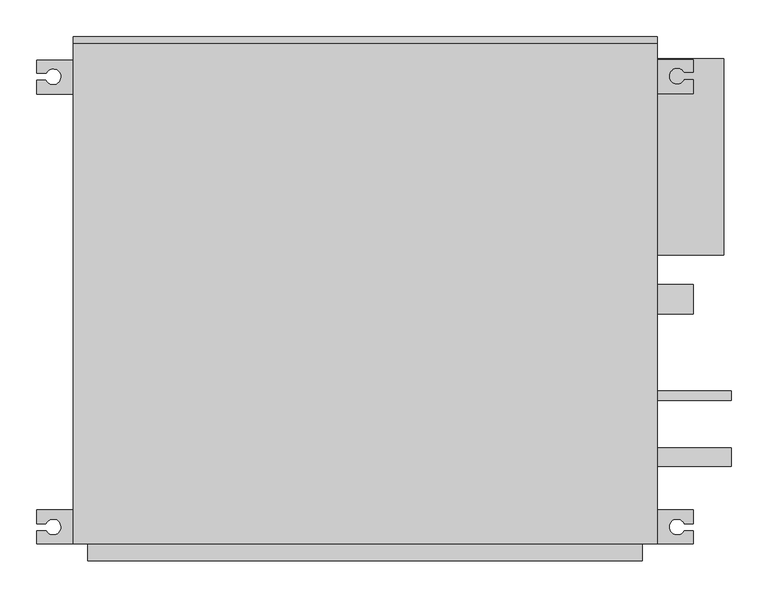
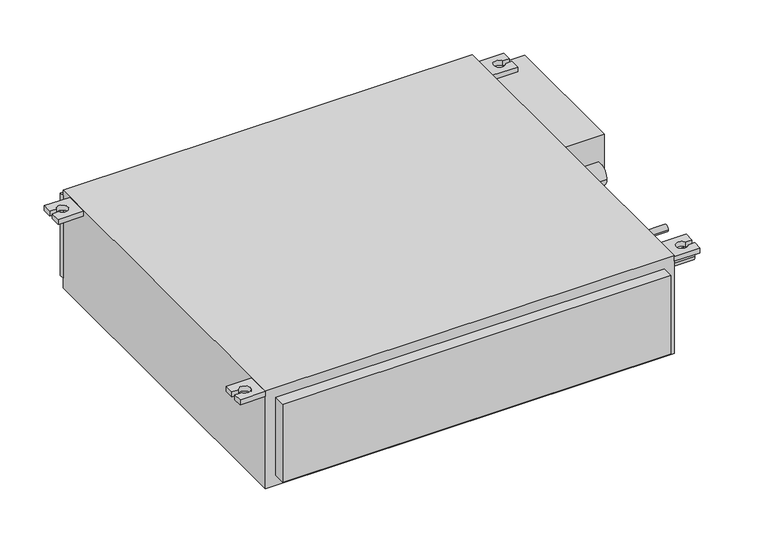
"""IFC4 building model written with IfcOpenShell, lengths in millimetres: proxy geometry, PEFY-P-NMSU-E_Low_Profile_Ducted : PEFY-P12NMSU-E."""

from ifc_helpers import new_model, si_unit, point, frame, frame_2d, origin, origin_with_axes, place, context, project, spatial, polyline, circle_curve, trimmed, segment, composite_curve, outline, extrude, source, transform, mapped, element, save


def mechanical_equipment_deea6110(model_context):
    return source(origin(), model_context, "Body", "SweptSolid", [
        extrude(outline(composite_curve([segment(polyline([(-444.2875, 282.0), (-444.2875, 300.9759165), (-432.1329311, 300.9759165)]), True, "CONTINUOUS"), segment(trimmed(circle_curve(frame_2d((-422.2738556, 305.4254582)), 10.8166442), [point((-432.1329311, 300.9759165))], [point((-431.8262803, 310.5))], True, "CARTESIAN"), True, "CONTINUOUS"), segment(polyline([(-431.8262803, 310.5), (-444.2875, 310.5), (-444.2875, 328.0), (-395.2875, 328.0), (-395.2875, 282.0), (-444.2875, 282.0)]), True, "CONTINUOUS")], self_intersect=False)), frame((0.0, 0.0, 188.55), z_axis=(0.0, 0.0, 1.0), x_axis=(1.0, 0.0, 0.0)), (0.0, 0.0, 1.0), 10.0),
        extrude(outline(composite_curve([segment(polyline([(-444.2875, -281.0), (-395.2875, -281.0), (-395.2875, -327.0), (-444.2875, -327.0), (-444.2875, -309.5), (-431.8262803, -309.5)]), True, "CONTINUOUS"), segment(trimmed(circle_curve(frame_2d((-422.2738556, -304.4254582)), 10.8166442), [point((-431.8262803, -309.5))], [point((-432.1329311, -299.9759165))], True, "CARTESIAN"), True, "CONTINUOUS"), segment(polyline([(-432.1329311, -299.9759165), (-444.2875, -299.9759165), (-444.2875, -281.0)]), True, "CONTINUOUS")], self_intersect=False)), frame((0.0, 0.0, 188.55), z_axis=(0.0, 0.0, 1.0), x_axis=(1.0, 0.0, 0.0)), (0.0, 0.0, 1.0), 10.0),
        extrude(outline(composite_curve([segment(polyline([(444.2875, 282.9429009), (395.2875, 282.9429009), (395.2875, 328.9429009), (444.2875, 328.9429009), (444.2875, 311.4429009), (431.8262803, 311.4429009)]), True, "CONTINUOUS"), segment(trimmed(circle_curve(frame_2d((422.2738556, 306.3683591)), 10.8166442), [point((431.8262803, 311.4429009))], [point((432.1329311, 301.9188174))], True, "CARTESIAN"), True, "CONTINUOUS"), segment(polyline([(432.1329311, 301.9188174), (444.2875, 301.9188174), (444.2875, 282.9429009)]), True, "CONTINUOUS")], self_intersect=False)), frame((0.0, 0.0, 188.55), z_axis=(0.0, 0.0, 1.0), x_axis=(1.0, 0.0, 0.0)), (0.0, 0.0, 1.0), 10.0),
        extrude(outline(composite_curve([segment(polyline([(444.2875, -281.0), (444.2875, -299.9759165), (432.1329311, -299.9759165)]), True, "CONTINUOUS"), segment(trimmed(circle_curve(frame_2d((422.2738556, -304.4254582)), 10.8166442), [point((432.1329311, -299.9759165))], [point((431.8262803, -309.5))], True, "CARTESIAN"), True, "CONTINUOUS"), segment(polyline([(431.8262803, -309.5), (444.2875, -309.5), (444.2875, -327.0), (395.2875, -327.0), (395.2875, -281.0), (444.2875, -281.0)]), True, "CONTINUOUS")], self_intersect=False)), frame((0.0, 0.0, 188.55), z_axis=(0.0, 0.0, 1.0), x_axis=(1.0, 0.0, 0.0)), (0.0, 0.0, 1.0), 10.0),
        extrude(outline(polyline([(395.2875, 350.04375), (-395.2875, 350.04375), (-395.2875, 359.5477547), (395.2875, 359.5477547), (395.2875, 350.04375)])), frame((0.0, 0.0, 20.0), z_axis=(0.0, 0.0, 1.0), x_axis=(1.0, 0.0, 0.0)), (0.0, 0.0, 1.0), 168.55),
        extrude(outline(composite_curve([segment(trimmed(circle_curve(frame_2d((4.0570991, 59.8)), 20.0421875), [point((-15.9850884, 59.8))], [point((24.0992866, 59.8))], False, "CARTESIAN"), True, "CONTINUOUS"), segment(trimmed(circle_curve(frame_2d((4.0570991, 59.8)), 20.0421875), [point((24.0992866, 59.8))], [point((-15.9850884, 59.8))], False, "CARTESIAN"), True, "CONTINUOUS")], self_intersect=False)), frame((395.2875, 0.0, 0.0), z_axis=(1.0, 0.0, 0.0), x_axis=(0.0, 1.0, 0.0)), (0.0, 0.0, 1.0), 26.9863556),
        extrude(outline(composite_curve([segment(trimmed(circle_curve(frame_2d((4.0570991, 149.6)), 20.0421875), [point((-15.9850884, 149.6))], [point((24.0992866, 149.6))], False, "CARTESIAN"), True, "CONTINUOUS"), segment(trimmed(circle_curve(frame_2d((4.0570991, 149.6)), 20.0421875), [point((24.0992866, 149.6))], [point((-15.9850884, 149.6))], False, "CARTESIAN"), True, "CONTINUOUS")], self_intersect=False)), frame((395.2875, 0.0, 0.0), z_axis=(1.0, 0.0, 0.0), x_axis=(0.0, 1.0, 0.0)), (0.0, 0.0, 1.0), 49.0),
        extrude(outline(composite_curve([segment(trimmed(circle_curve(frame_2d((-126.5596979, 100.0)), 6.4492188), [point((-133.0089166, 100.0))], [point((-120.1104791, 100.0))], False, "CARTESIAN"), True, "CONTINUOUS"), segment(trimmed(circle_curve(frame_2d((-126.5596979, 100.0)), 6.4492188), [point((-120.1104791, 100.0))], [point((-133.0089166, 100.0))], False, "CARTESIAN"), True, "CONTINUOUS")], self_intersect=False)), frame((395.2875, 0.0, 0.0), z_axis=(1.0, 0.0, 0.0), x_axis=(0.0, 1.0, 0.0)), (0.0, 0.0, 1.0), 100.0),
        extrude(outline(composite_curve([segment(trimmed(circle_curve(frame_2d((-209.7540575, 100.0)), 12.7), [point((-222.4540575, 100.0))], [point((-197.0540575, 100.0))], False, "CARTESIAN"), True, "CONTINUOUS"), segment(trimmed(circle_curve(frame_2d((-209.7540575, 100.0)), 12.7), [point((-197.0540575, 100.0))], [point((-222.4540575, 100.0))], False, "CARTESIAN"), True, "CONTINUOUS")], self_intersect=False)), frame((395.2875, 0.0, 0.0), z_axis=(1.0, 0.0, 0.0), x_axis=(0.0, 1.0, 0.0)), (0.0, 0.0, 1.0), 100.0),
        extrude(outline(polyline([(485.2875, 330.0), (485.2875, 64.0570991), (395.2875, 64.0570991), (395.2875, 330.0), (485.2875, 330.0)])), frame((0.0, 0.0, 20.0), z_axis=(0.0, 0.0, 1.0), x_axis=(1.0, 0.0, 0.0)), (0.0, 0.0, 1.0), 159.8),
        extrude(outline(polyline([(375.2875, -350.04375), (-375.2875, -350.04375), (-375.2875, -327.0), (375.2875, -327.0), (375.2875, -350.04375)])), frame((0.0, 0.0, 19.9585938), z_axis=(0.0, 0.0, 1.0), x_axis=(1.0, 0.0, 0.0)), (0.0, 0.0, 1.0), 159.8414063),
        extrude(outline(polyline([(-395.2875, -327.0), (-395.2875, 350.04375), (395.2875, 350.04375), (395.2875, -327.0), (-395.2875, -327.0)])), origin_with_axes(), (0.0, 0.0, 1.0), 200.0),
    ])


if __name__ == "__main__":
    model = new_model("IFC4")
    model_context = context("Model", 3, world=origin())
    ifc_project = project(units=[si_unit("LENGTHUNIT", "METRE", prefix="MILLI")], contexts=[model_context])
    site = spatial("IfcSite", under=ifc_project)
    building = spatial("IfcBuilding", under=site)
    placement = place(None, origin())
    mechanical_equipment_shape = mechanical_equipment_deea6110(model_context)
    element("IfcBuildingElementProxy", 1, Name="PEFY-P-NMSU-E_Low_Profile_Ducted : PEFY-P12NMSU-E", ObjectType="PEFY-P-NMSU-E_Low_Profile_Ducted : PEFY-P12NMSU-E", at=placement, inside=building, context=model_context, shape_type="MappedRepresentation", body=[
        mapped(mechanical_equipment_shape, transform((0.0, 0.0, 0.0), x_axis=(1.0, 0.0, 0.0), y_axis=(0.0, 1.0, 0.0), z_axis=(0.0, 0.0, 1.0))),
    ])
    save(model, "model.ifc")
